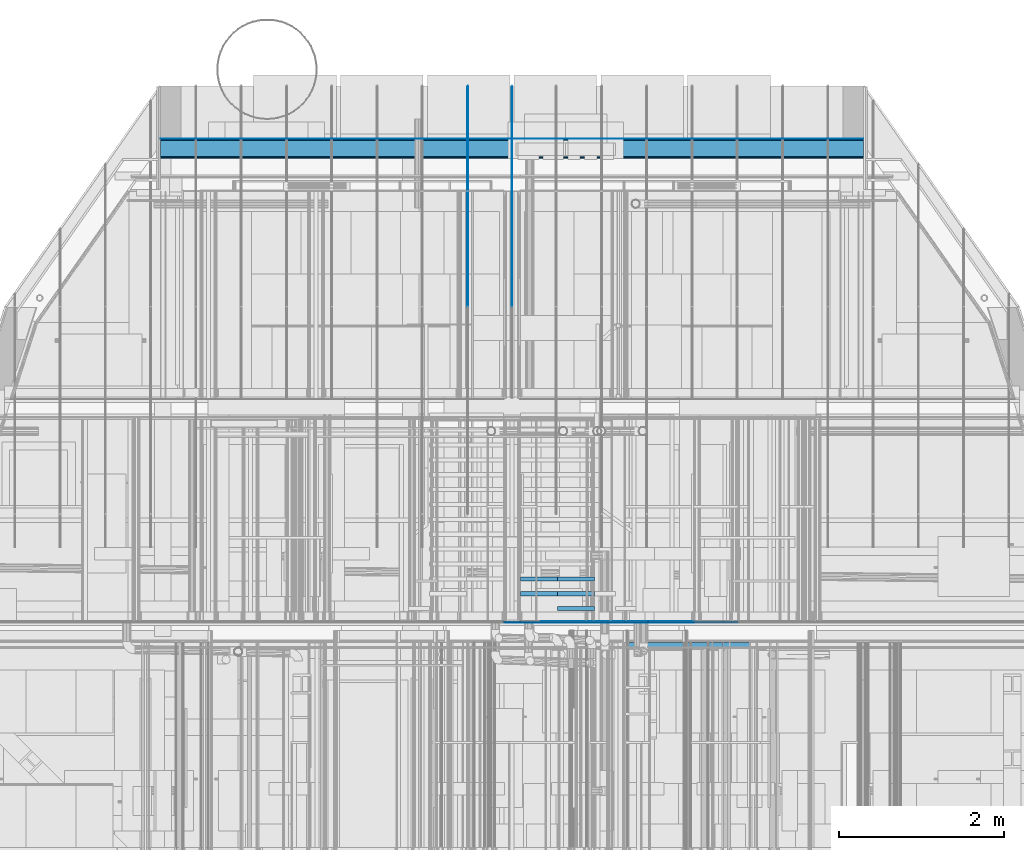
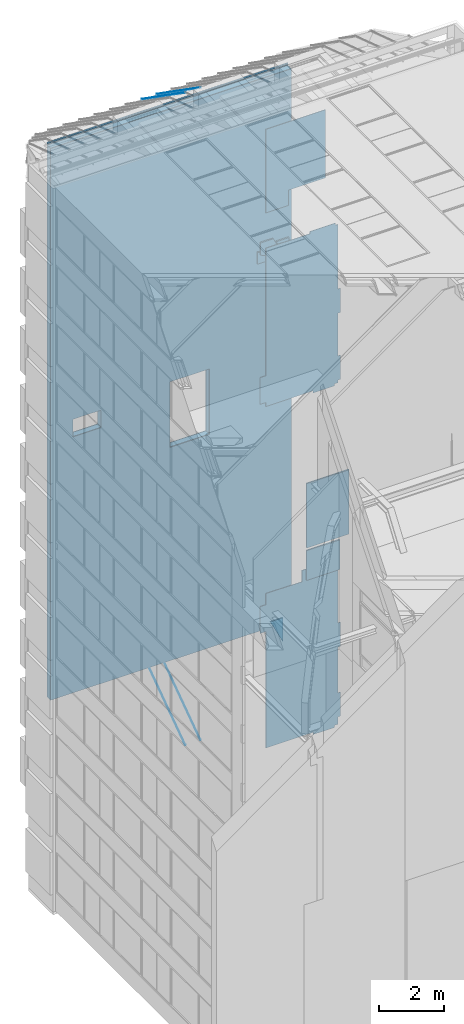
# One storey, part 281 of 583: 20 slabs.
"""IFC2X3 building model written with IfcOpenShell, lengths in metres."""

import ifcopenshell
import ifcopenshell.guid

model = None  # the IFC model being written
_history = None  # IfcOwnerHistory: only IFC2X3 demands one
_inside = {}  # id of a spatial element -> (the spatial element, [elements in it])
_under = {}  # id of a project, library or spatial element -> (it, [spatial elements below it])
_declared = {}  # id of a project -> (the project, [libraries it declares])
_typed = {}  # id of a type object -> (the type object, [elements of that type])
_made_of = {}  # id of a material, layer set ... -> (it, [elements and type objects made of it])


def new_model(schema):
    """Start an empty IFC model of exactly this schema.

    Asked for "IFC4X3", IfcOpenShell would pick the latest addendum, in which some entities
    have other attributes; the version numbers below select the first issue.
    IFC2X3 requires an IfcOwnerHistory on every rooted entity: one is made here for all.
    """
    global model, _history
    if schema == "IFC4X3":
        model = ifcopenshell.file(schema_version=(4, 3, 0, 0))
    else:
        model = ifcopenshell.file(schema=schema)
    _inside.clear()
    _under.clear()
    _declared.clear()
    _typed.clear()
    _made_of.clear()
    _history = None
    if model.schema == "IFC2X3":
        org = make("IfcOrganization", Name="unknown")
        user = make(
            "IfcPersonAndOrganization",
            ThePerson=make("IfcPerson", FamilyName="unknown"),
            TheOrganization=org,
        )
        app = make(
            "IfcApplication",
            ApplicationDeveloper=org,
            Version="unknown",
            ApplicationFullName="unknown",
            ApplicationIdentifier="unknown",
        )
        _history = make(
            "IfcOwnerHistory",
            OwningUser=user,
            OwningApplication=app,
            ChangeAction="ADDED",
            CreationDate=0,
        )
    return model


def make(cls, **values):
    """One entity of the class cls with the attributes given. An attribute that is None is left unset."""
    return model.create_entity(
        cls, **{name: value for name, value in values.items() if value is not None}
    )


def entity(cls, *values):
    """Any entity or typed value of the class cls, its attributes in the order of the schema. None: left unset."""
    e = model.create_entity(cls)
    for i, value in enumerate(values):
        if value is not None:
            e[i] = value
    return e


def rooted(cls, **values):
    """An entity with a GlobalId (a new one), such as an element, a storey or a relation."""
    return make(cls, GlobalId=ifcopenshell.guid.new(), OwnerHistory=_history, **values)


def si_unit(unit_type, name, prefix=None):
    """IfcSIUnit, for example si_unit("LENGTHUNIT", "METRE", prefix="MILLI")."""
    return make("IfcSIUnit", UnitType=unit_type, Prefix=prefix, Name=name)


def converted_unit(unit_type, name, factor, base, dimensions=None, offset=None):
    """IfcConversionBasedUnit, such as the inch: factor (a typed value) times the base unit."""
    return make(
        "IfcConversionBasedUnit"
        if offset is None
        else "IfcConversionBasedUnitWithOffset",
        ConversionOffset=offset,
        Dimensions=None
        if dimensions is None
        else entity("IfcDimensionalExponents", *dimensions),
        UnitType=unit_type,
        Name=name,
        ConversionFactor=make(
            "IfcMeasureWithUnit", ValueComponent=factor, UnitComponent=base
        ),
    )


def derived_unit(unit_type, elements):
    """IfcDerivedUnit: a product of units, each with its exponent."""
    return make(
        "IfcDerivedUnit",
        Elements=[
            make("IfcDerivedUnitElement", Unit=unit, Exponent=power)
            for unit, power in elements
        ],
        UnitType=unit_type,
    )


def money_unit(currency):
    """IfcMonetaryUnit."""
    return make("IfcMonetaryUnit", Currency=currency)


def assignment(units):
    """IfcUnitAssignment: the units of a project."""
    return None if units is None else make("IfcUnitAssignment", Units=units)


def point(xyz):
    """IfcCartesianPoint."""
    return None if xyz is None else make("IfcCartesianPoint", Coordinates=xyz)


def direction(xyz):
    """IfcDirection."""
    return None if xyz is None else make("IfcDirection", DirectionRatios=xyz)


def frame(location, z_axis=None, x_axis=None):
    """IfcAxis2Placement3D, a coordinate frame: its origin and axes. An axis left out is left unset."""
    return make(
        "IfcAxis2Placement3D",
        Location=point(location),
        Axis=direction(z_axis),
        RefDirection=direction(x_axis),
    )


def origin_with_axes():
    """The frame at (0, 0, 0) with the z axis (0, 0, 1) and the x axis (1, 0, 0) written out."""
    return frame((0.0, 0.0, 0.0), z_axis=(0.0, 0.0, 1.0), x_axis=(1.0, 0.0, 0.0))


def place(relative_to, where):
    """IfcLocalPlacement: puts the frame where relative to a parent placement (None: the world)."""
    return make(
        "IfcLocalPlacement", PlacementRelTo=relative_to, RelativePlacement=where
    )


def context(
    kind, dimensions, precision=None, world=None, true_north=None, identifier=None
):
    """IfcGeometricRepresentationContext, for example the 3D "Model" context."""
    return make(
        "IfcGeometricRepresentationContext",
        ContextIdentifier=identifier,
        ContextType=kind,
        CoordinateSpaceDimension=dimensions,
        Precision=precision,
        WorldCoordinateSystem=world,
        TrueNorth=true_north,
    )


def subcontext(parent, identifier, kind, view, scale=None):
    """IfcGeometricRepresentationSubContext, for example "Body" below "Model"."""
    return make(
        "IfcGeometricRepresentationSubContext",
        ContextIdentifier=identifier,
        ContextType=kind,
        ParentContext=parent,
        TargetScale=scale,
        TargetView=view,
    )


def project(units=None, contexts=None):
    """IfcProject with its units and contexts."""
    return rooted(
        "IfcProject",
        Name="project",
        RepresentationContexts=contexts,
        UnitsInContext=assignment(units),
    )


def spatial(cls, under=None, at=None, **own):
    """A site, building, storey or space (cls), placed at a placement, below another one or the project."""
    s = rooted(cls, ObjectPlacement=at, **own)
    if under is not None:
        _under.setdefault(under.id(), (under, []))[1].append(s)
    return s


def faces_of(points, faces, orient=None, outer=None):
    """IfcFace entities. A face is a list of loops; a loop is a list of indices into points, from 0.

    orient and outer hold one flag for each loop. By default every Orientation is true, the
    first loop of a face is its IfcFaceOuterBound and the others are IfcFaceBound.
    """
    made = []
    for i, loops in enumerate(faces):
        bounds = []
        for j, loop in enumerate(loops):
            is_outer = j == 0 if outer is None else outer[i][j]
            bounds.append(
                make(
                    "IfcFaceOuterBound" if is_outer else "IfcFaceBound",
                    Bound=make("IfcPolyLoop", Polygon=[points[k] for k in loop]),
                    Orientation=True if orient is None else orient[i][j],
                )
            )
        made.append(make("IfcFace", Bounds=bounds))
    return made


def faceted_brep(points, faces, orient=None, outer=None, voids=None):
    """IfcFacetedBrep: a solid bounded by flat faces; with voids (closed shells), ...WithVoids."""
    shared = [point(p) for p in points]
    hull = make("IfcClosedShell", CfsFaces=faces_of(shared, faces, orient, outer))
    if voids is None:
        return make("IfcFacetedBrep", Outer=hull)
    return make(
        "IfcFacetedBrepWithVoids",
        Outer=hull,
        Voids=[
            make(cls, CfsFaces=faces_of(shared, fs, o, b)) for cls, fs, o, b in voids
        ],
    )


def shape(context_of_items, identifier, shape_type, items):
    """IfcShapeRepresentation: the items that make up one representation, for example the "Body"."""
    return make(
        "IfcShapeRepresentation",
        ContextOfItems=context_of_items,
        RepresentationIdentifier=identifier,
        RepresentationType=shape_type,
        Items=items,
    )


def material(Name=None, Category=None):
    """IfcMaterial."""
    return make("IfcMaterial", Name=Name, Category=Category)


def made_of(thing, what):
    """Note that an element or type object is made of a material, layer set ...; save() writes the relation."""
    if what is not None:
        _made_of.setdefault(what.id(), (what, []))[1].append(thing)
    return thing


def type_object(cls, material=None, **own):
    """A type object (cls), such as IfcWallType, which elements share."""
    return made_of(rooted(cls, **own), material)


def element(
    cls,
    number,
    at=None,
    inside=None,
    cuts=None,
    type_object=None,
    material=None,
    context=None,
    identifier="Body",
    shape_type=None,
    held_by="IfcProductDefinitionShape",
    body=None,
    shapes=None,
    **own,
):
    """One element of the class cls, such as IfcWall. Its Tag is "e" and its number.

    at: its placement. inside: the storey or other place that contains it. cuts: it is an
    opening in that element (IfcRelVoidsElement). A single representation is given by context,
    identifier, shape_type and body (its items); several are given by shapes. held_by: the class
    of the entity that holds the representations. save() writes the other relations.
    """
    e = rooted(cls, Tag="e%d" % number, ObjectPlacement=at, **own)
    if body is not None:
        shapes = [shape(context, identifier, shape_type, body)]
    if shapes is not None:
        e.Representation = make(held_by, Representations=shapes)
    if inside is not None:
        _inside.setdefault(inside.id(), (inside, []))[1].append(e)
    if cuts is not None:
        rooted(
            "IfcRelVoidsElement", RelatingBuildingElement=cuts, RelatedOpeningElement=e
        )
    if type_object is not None:
        _typed.setdefault(type_object.id(), (type_object, []))[1].append(e)
    return made_of(e, material)


def aggregate(whole, parts):
    """IfcRelAggregates: a whole, such as a stair, and the parts it consists of."""
    return rooted("IfcRelAggregates", RelatingObject=whole, RelatedObjects=parts)


def save(model, path):
    """Write the relations noted so far, then the file.

    IfcRelAggregates (storeys below a building ...), IfcRelContainedInSpatialStructure (elements
    in a storey), IfcRelDefinesByType, IfcRelAssociatesMaterial and IfcRelDeclares: one each for
    every whole, place, type object, material and project.
    """
    for whole, parts in _under.values():
        aggregate(whole, parts)
    for where, things in _inside.values():
        rooted(
            "IfcRelContainedInSpatialStructure",
            RelatedElements=things,
            RelatingStructure=where,
        )
    for kind, things in _typed.values():
        rooted("IfcRelDefinesByType", RelatedObjects=things, RelatingType=kind)
    for what, things in _made_of.values():
        rooted("IfcRelAssociatesMaterial", RelatedObjects=things, RelatingMaterial=what)
    for by, libraries in _declared.values():
        rooted("IfcRelDeclares", RelatingContext=by, RelatedDefinitions=libraries)
    model.write(path)


model = new_model("IFC2X3")

# Units and contexts
model_context = context("Model", 3, precision=1e-05, world=origin_with_axes(), true_north=direction((0.0, 1.0)))
body_context = subcontext(model_context, "Body", "Model", "MODEL_VIEW", scale=1.0)
ifc_project = project(units=[si_unit("LENGTHUNIT", "METRE"), si_unit("AREAUNIT", "SQUARE_METRE"), si_unit("VOLUMEUNIT", "CUBIC_METRE"), si_unit("ABSORBEDDOSEUNIT", "GRAY"), si_unit("AMOUNTOFSUBSTANCEUNIT", "MOLE"), si_unit("DOSEEQUIVALENTUNIT", "SIEVERT"), si_unit("ELECTRICCAPACITANCEUNIT", "FARAD"), si_unit("ELECTRICCHARGEUNIT", "COULOMB"), si_unit("ELECTRICCONDUCTANCEUNIT", "SIEMENS"), si_unit("ELECTRICCURRENTUNIT", "AMPERE"), si_unit("ELECTRICRESISTANCEUNIT", "OHM"), si_unit("ELECTRICVOLTAGEUNIT", "VOLT"), si_unit("ENERGYUNIT", "JOULE"), si_unit("FORCEUNIT", "NEWTON"), si_unit("FREQUENCYUNIT", "HERTZ"), si_unit("ILLUMINANCEUNIT", "LUX"), si_unit("INDUCTANCEUNIT", "HENRY"), si_unit("LUMINOUSFLUXUNIT", "LUMEN"), si_unit("LUMINOUSINTENSITYUNIT", "CANDELA"), si_unit("MAGNETICFLUXDENSITYUNIT", "TESLA"), si_unit("MAGNETICFLUXUNIT", "WEBER"), si_unit("MASSUNIT", "GRAM"), converted_unit("PLANEANGLEUNIT", "degree", entity("IfcReal", 0.0174532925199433), si_unit("PLANEANGLEUNIT", "RADIAN"), dimensions=[0, 0, 0, 0, 0, 0, 0]), si_unit("POWERUNIT", "WATT"), si_unit("PRESSUREUNIT", "PASCAL"), si_unit("RADIOACTIVITYUNIT", "BECQUEREL"), si_unit("SOLIDANGLEUNIT", "STERADIAN"), si_unit("THERMODYNAMICTEMPERATUREUNIT", "KELVIN"), si_unit("TIMEUNIT", "SECOND"), derived_unit("ACCELERATIONUNIT", [(si_unit("LENGTHUNIT", "METRE"), 1), (si_unit("TIMEUNIT", "SECOND"), -2)]), derived_unit("ANGULARVELOCITYUNIT", [(converted_unit("PLANEANGLEUNIT", "degree", entity("IfcReal", 0.0174532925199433), si_unit("PLANEANGLEUNIT", "RADIAN"), dimensions=[0, 0, 0, 0, 0, 0, 0]), 1), (si_unit("TIMEUNIT", "SECOND"), -1)]), derived_unit("CURVATUREUNIT", [(converted_unit("PLANEANGLEUNIT", "degree", entity("IfcReal", 0.0174532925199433), si_unit("PLANEANGLEUNIT", "RADIAN"), dimensions=[0, 0, 0, 0, 0, 0, 0]), 1), (si_unit("LENGTHUNIT", "METRE"), -1)]), derived_unit("DYNAMICVISCOSITYUNIT", [(si_unit("PRESSUREUNIT", "PASCAL"), 1), (si_unit("TIMEUNIT", "SECOND"), 1)]), derived_unit("HEATFLUXDENSITYUNIT", [(si_unit("POWERUNIT", "WATT"), 1), (si_unit("LENGTHUNIT", "METRE"), -2)]), derived_unit("HEATINGVALUEUNIT", [(si_unit("ENERGYUNIT", "JOULE"), 1), (si_unit("MASSUNIT", "GRAM"), -1)]), derived_unit("INTEGERCOUNTRATEUNIT", [(si_unit("TIMEUNIT", "SECOND"), -1)]), derived_unit("IONCONCENTRATIONUNIT", [(si_unit("MASSUNIT", "GRAM"), 1), (si_unit("VOLUMEUNIT", "CUBIC_METRE"), -1)]), derived_unit("ISOTHERMALMOISTURECAPACITYUNIT", [(si_unit("VOLUMEUNIT", "CUBIC_METRE"), 1), (si_unit("MASSUNIT", "GRAM"), -1)]), derived_unit("KINEMATICVISCOSITYUNIT", [(si_unit("AREAUNIT", "SQUARE_METRE"), 1), (si_unit("TIMEUNIT", "SECOND"), -1)]), derived_unit("LINEARFORCEUNIT", [(si_unit("FORCEUNIT", "NEWTON"), 1), (si_unit("LENGTHUNIT", "METRE"), -1)]), derived_unit("LINEARMOMENTUNIT", [(si_unit("FORCEUNIT", "NEWTON"), 1), (si_unit("LENGTHUNIT", "METRE"), -1)]), derived_unit("LINEARSTIFFNESSUNIT", [(si_unit("FORCEUNIT", "NEWTON"), 1), (si_unit("LENGTHUNIT", "METRE"), -1)]), derived_unit("LINEARVELOCITYUNIT", [(si_unit("LENGTHUNIT", "METRE"), 1), (si_unit("TIMEUNIT", "SECOND"), -1)]), derived_unit("LUMINOUSINTENSITYDISTRIBUTIONUNIT", [(si_unit("LUMINOUSINTENSITYUNIT", "CANDELA"), 1), (si_unit("LUMINOUSFLUXUNIT", "LUMEN"), -1)]), derived_unit("MASSDENSITYUNIT", [(si_unit("MASSUNIT", "GRAM"), 1), (si_unit("VOLUMEUNIT", "CUBIC_METRE"), -1)]), derived_unit("MASSFLOWRATEUNIT", [(si_unit("MASSUNIT", "GRAM"), 1), (si_unit("TIMEUNIT", "SECOND"), -1)]), derived_unit("MASSPERLENGTHUNIT", [(si_unit("MASSUNIT", "GRAM"), 1), (si_unit("LENGTHUNIT", "METRE"), -1)]), derived_unit("MODULUSOFELASTICITYUNIT", [(si_unit("FORCEUNIT", "NEWTON"), 1), (si_unit("AREAUNIT", "SQUARE_METRE"), -1)]), derived_unit("MODULUSOFLINEARSUBGRADEREACTIONUNIT", [(si_unit("FORCEUNIT", "NEWTON"), 1), (si_unit("LENGTHUNIT", "METRE"), -2)]), derived_unit("MODULUSOFROTATIONALSUBGRADEREACTIONUNIT", [(si_unit("FORCEUNIT", "NEWTON"), 1), (si_unit("LENGTHUNIT", "METRE"), 1)]), derived_unit("MODULUSOFSUBGRADEREACTIONUNIT", [(si_unit("FORCEUNIT", "NEWTON"), 1), (si_unit("VOLUMEUNIT", "CUBIC_METRE"), -1)]), derived_unit("MOISTUREDIFFUSIVITYUNIT", [(si_unit("VOLUMEUNIT", "CUBIC_METRE"), 1), (si_unit("TIMEUNIT", "SECOND"), -1)]), derived_unit("MOLECULARWEIGHTUNIT", [(si_unit("MASSUNIT", "GRAM"), 1), (si_unit("AMOUNTOFSUBSTANCEUNIT", "MOLE"), -1)]), derived_unit("PLANARFORCEUNIT", [(si_unit("FORCEUNIT", "NEWTON"), 1), (si_unit("LENGTHUNIT", "METRE"), -2)]), derived_unit("ROTATIONALFREQUENCYUNIT", [(si_unit("TIMEUNIT", "SECOND"), -1)]), derived_unit("ROTATIONALMASSUNIT", [(si_unit("MASSUNIT", "GRAM"), 1), (si_unit("LENGTHUNIT", "METRE"), 2)]), derived_unit("ROTATIONALSTIFFNESSUNIT", [(si_unit("FORCEUNIT", "NEWTON"), 1), (si_unit("LENGTHUNIT", "METRE"), 1), (converted_unit("PLANEANGLEUNIT", "degree", entity("IfcReal", 0.0174532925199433), si_unit("PLANEANGLEUNIT", "RADIAN"), dimensions=[0, 0, 0, 0, 0, 0, 0]), -1)]), derived_unit("SECTIONAREAINTEGRALUNIT", [(si_unit("LENGTHUNIT", "METRE"), 5)]), derived_unit("SECTIONMODULUSUNIT", [(si_unit("LENGTHUNIT", "METRE"), 3)]), derived_unit("SHEARMODULUSUNIT", [(si_unit("FORCEUNIT", "NEWTON"), 1), (si_unit("AREAUNIT", "SQUARE_METRE"), -1)]), derived_unit("SOUNDPOWERUNIT", [(si_unit("ENERGYUNIT", "JOULE"), 1), (si_unit("TIMEUNIT", "SECOND"), -1)]), derived_unit("SPECIFICHEATCAPACITYUNIT", [(si_unit("FORCEUNIT", "NEWTON"), 1), (si_unit("MASSUNIT", "GRAM"), -1), (si_unit("THERMODYNAMICTEMPERATUREUNIT", "KELVIN"), -1)]), derived_unit("TEMPERATUREGRADIENTUNIT", [(si_unit("THERMODYNAMICTEMPERATUREUNIT", "KELVIN"), 1), (si_unit("LENGTHUNIT", "METRE"), -1)]), derived_unit("THERMALADMITTANCEUNIT", [(si_unit("POWERUNIT", "WATT"), 1), (si_unit("AREAUNIT", "SQUARE_METRE"), -1), (si_unit("THERMODYNAMICTEMPERATUREUNIT", "KELVIN"), -1)]), derived_unit("THERMALCONDUCTANCEUNIT", [(si_unit("POWERUNIT", "WATT"), 1), (si_unit("LENGTHUNIT", "METRE"), -1), (si_unit("THERMODYNAMICTEMPERATUREUNIT", "KELVIN"), -1)]), derived_unit("THERMALEXPANSIONCOEFFICIENTUNIT", [(si_unit("THERMODYNAMICTEMPERATUREUNIT", "KELVIN"), -1)]), derived_unit("THERMALRESISTANCEUNIT", [(si_unit("AREAUNIT", "SQUARE_METRE"), 1), (si_unit("POWERUNIT", "WATT"), -1)]), derived_unit("THERMALTRANSMITTANCEUNIT", [(si_unit("POWERUNIT", "WATT"), 1), (si_unit("AREAUNIT", "SQUARE_METRE"), -1), (si_unit("THERMODYNAMICTEMPERATUREUNIT", "KELVIN"), -1)]), derived_unit("TORQUEUNIT", [(si_unit("FORCEUNIT", "NEWTON"), 1), (si_unit("LENGTHUNIT", "METRE"), 1)]), derived_unit("VAPORPERMEABILITYUNIT", [(si_unit("MASSUNIT", "GRAM"), 1), (si_unit("TIMEUNIT", "SECOND"), -1)]), derived_unit("VOLUMETRICFLOWRATEUNIT", [(si_unit("VOLUMEUNIT", "CUBIC_METRE"), 1), (si_unit("TIMEUNIT", "SECOND"), -1)]), derived_unit("WARPINGCONSTANTUNIT", [(si_unit("LENGTHUNIT", "METRE"), 6)]), derived_unit("WARPINGMOMENTUNIT", [(si_unit("FORCEUNIT", "NEWTON"), 1), (si_unit("LENGTHUNIT", "METRE"), 2)]), money_unit("GBP")], contexts=[model_context])

# Site, building, storey
site_placement = place(None, origin_with_axes())
site = spatial("IfcSite", under=ifc_project, at=site_placement, Name="Site", CompositionType="ELEMENT")
building_placement = place(site_placement, origin_with_axes())
building = spatial("IfcBuilding", under=site, at=building_placement, Name="Building01", CompositionType="ELEMENT")
storey_placement = place(building_placement, frame((0.0, 0.0, 20.78), z_axis=(0.0, 0.0, 1.0), x_axis=(1.0, 0.0, 0.0)))
storey = spatial("IfcBuildingStorey", under=building, at=storey_placement, Name="RL", CompositionType="ELEMENT", Elevation=20.78)

# Slabs
ifc_material_1 = material(Name="A_BSUK_ExpandedPolystyreneBoards")
slab_type_1 = type_object("IfcSlabType", Name="A-FloorsSlabs A_BSUK_Slabs", PredefinedType="FLOOR")
placement = place(storey_placement, frame((0.0, 0.0, -20.78), z_axis=(0.0, 0.0, 1.0), x_axis=(1.0, 0.0, 0.0)))
element("IfcSlab", 1, at=placement, inside=storey, type_object=slab_type_1, material=ifc_material_1, Name="A-FloorsSlabs A_BSUK_Slabs", ObjectType="CompoundSlabLeaf", context=body_context, shape_type="Brep", body=[
    faceted_brep([(9.974939, 14.965, 3.3), (9.974939, 14.968, 3.3), (10.099939, 14.968, 3.3), (10.099939, 14.965, 3.3), (9.974939, 14.965, 3.22), (9.974939, 14.968, 3.22), (9.224939, 14.965, 3.22), (9.224939, 14.968, 3.22), (9.224939, 14.965, 3.3), (9.224939, 14.968, 3.3), (8.695061, 14.965, 3.3), (8.695061, 14.968, 3.3), (7.550061, 14.965, 3.3), (7.550061, 14.968, 3.3), (7.550061, 14.965, 4.74), (7.550061, 14.968, 4.74), (7.550061, 14.965, 7.54), (7.550061, 14.968, 7.54), (7.55, 14.965, 7.54), (7.55, 14.968, 7.54), (7.55, 14.965, 7.644), (7.55, 14.968, 7.644), (7.349939, 14.965, 7.644), (7.349939, 14.968, 7.644), (7.349939, 14.965, 8.644), (7.349939, 14.968, 8.644), (7.55, 14.965, 8.644), (7.55, 14.968, 8.644), (7.55, 14.965, 9.06), (7.55, 14.968, 9.06), (8.82, 14.965, 9.06), (8.82, 14.968, 9.06), (8.82, 14.965, 9.480024), (8.82, 14.968, 9.480024), (9.099939, 14.965, 9.480024), (9.099939, 14.968, 9.480024), (9.099939, 14.965, 9.560024), (9.099939, 14.968, 9.560024), (9.999939, 14.965, 9.560024), (9.999939, 14.968, 9.560024), (9.999939, 14.965, 9.480024), (9.999939, 14.968, 9.480024), (10.099939, 14.965, 9.480024), (10.099939, 14.968, 9.480024), (10.099939, 14.965, 8.290024), (10.099939, 14.968, 8.290024), (10.099939, 14.965, 7.390024), (10.099939, 14.968, 7.390024), (10.099939, 14.965, 7.080024), (10.099939, 14.968, 7.080024), (10.179939, 14.965, 7.080024), (10.179939, 14.968, 7.080024), (10.179939, 14.965, 6.180024), (10.179939, 14.968, 6.180024), (10.099939, 14.965, 6.180024), (10.099939, 14.968, 6.180024), (10.099939, 14.965, 4.47), (10.099939, 14.968, 4.47), (10.179939, 14.965, 4.47), (10.179939, 14.968, 4.47), (10.179939, 14.965, 3.57), (10.179939, 14.968, 3.57), (10.099939, 14.965, 3.57), (10.099939, 14.968, 3.57)], [[[0, 1, 2, 3]], [[4, 5, 1, 0]], [[6, 7, 5, 4]], [[8, 9, 7, 6]], [[10, 11, 9, 8]], [[12, 13, 11, 10]], [[14, 15, 13, 12]], [[16, 17, 15, 14]], [[18, 19, 17, 16]], [[20, 21, 19, 18]], [[22, 23, 21, 20]], [[24, 25, 23, 22]], [[26, 27, 25, 24]], [[28, 29, 27, 26]], [[30, 31, 29, 28]], [[32, 33, 31, 30]], [[34, 35, 33, 32]], [[36, 37, 35, 34]], [[38, 39, 37, 36]], [[40, 41, 39, 38]], [[42, 43, 41, 40]], [[44, 45, 43, 42]], [[46, 47, 45, 44]], [[48, 49, 47, 46]], [[50, 51, 49, 48]], [[52, 53, 51, 50]], [[54, 55, 53, 52]], [[56, 57, 55, 54]], [[58, 59, 57, 56]], [[60, 61, 59, 58]], [[62, 63, 61, 60]], [[3, 2, 63, 62]], [[1, 5, 7, 9, 11, 13, 15, 17, 19, 21, 23, 25, 27, 29, 31, 33, 35, 37, 39, 41, 43, 45, 47, 49, 51, 53, 55, 57, 59, 61, 63, 2]], [[3, 62, 60, 58, 56, 54, 52, 50, 48, 46, 44, 42, 40, 38, 36, 34, 32, 30, 28, 26, 24, 22, 20, 18, 16, 14, 12, 10, 8, 6, 4, 0]]]),
])
element("IfcSlab", 2, at=placement, inside=storey, type_object=slab_type_1, material=ifc_material_1, Name="A-FloorsSlabs A_BSUK_Slabs", ObjectType="CompoundSlabLeaf", context=body_context, shape_type="Brep", body=[
    faceted_brep([(9.961939, 14.965, 16.03844), (9.961939, 14.968, 16.03844), (10.099939, 14.968, 16.03844), (10.099939, 14.965, 16.03844), (9.961939, 14.965, 15.95844), (9.961939, 14.968, 15.95844), (9.211939, 14.965, 15.95844), (9.211939, 14.968, 15.95844), (9.211939, 14.965, 16.03844), (9.211939, 14.968, 16.03844), (7.549915, 14.965, 16.03844), (7.549915, 14.968, 16.03844), (7.549915, 14.965, 16.18844), (7.549915, 14.968, 16.18844), (7.349915, 14.965, 16.18844), (7.349915, 14.968, 16.18844), (7.349915, 14.965, 17.18844), (7.349915, 14.968, 17.18844), (7.549915, 14.965, 17.18844), (7.549915, 14.968, 17.18844), (7.549915, 14.965, 18.289976), (7.549915, 14.968, 18.289976), (7.549915, 14.965, 21.268457), (7.549915, 14.968, 21.268457), (7.549915, 14.965, 21.939976), (7.549915, 14.968, 21.939976), (9.099939, 14.965, 21.939976), (9.099939, 14.968, 21.939976), (9.099939, 14.965, 22.019976), (9.099939, 14.968, 22.019976), (9.999939, 14.965, 22.019976), (9.999939, 14.968, 22.019976), (9.999939, 14.965, 21.939976), (9.999939, 14.968, 21.939976), (10.099939, 14.965, 21.939976), (10.099939, 14.968, 21.939976), (10.099939, 14.965, 20.749976), (10.099939, 14.968, 20.749976), (10.099939, 14.965, 19.849976), (10.099939, 14.968, 19.849976), (10.099939, 14.965, 19.529976), (10.099939, 14.968, 19.529976), (10.179939, 14.965, 19.529976), (10.179939, 14.968, 19.529976), (10.179939, 14.965, 18.629976), (10.179939, 14.968, 18.629976), (10.099939, 14.965, 18.629976), (10.099939, 14.968, 18.629976), (10.099939, 14.965, 17.03844), (10.099939, 14.968, 17.03844), (10.179939, 14.965, 17.03844), (10.179939, 14.968, 17.03844), (10.179939, 14.965, 16.13844), (10.179939, 14.968, 16.13844), (10.099939, 14.965, 16.13844), (10.099939, 14.968, 16.13844)], [[[0, 1, 2, 3]], [[4, 5, 1, 0]], [[6, 7, 5, 4]], [[8, 9, 7, 6]], [[10, 11, 9, 8]], [[12, 13, 11, 10]], [[14, 15, 13, 12]], [[16, 17, 15, 14]], [[18, 19, 17, 16]], [[20, 21, 19, 18]], [[22, 23, 21, 20]], [[24, 25, 23, 22]], [[26, 27, 25, 24]], [[28, 29, 27, 26]], [[30, 31, 29, 28]], [[32, 33, 31, 30]], [[34, 35, 33, 32]], [[36, 37, 35, 34]], [[38, 39, 37, 36]], [[40, 41, 39, 38]], [[42, 43, 41, 40]], [[44, 45, 43, 42]], [[46, 47, 45, 44]], [[48, 49, 47, 46]], [[50, 51, 49, 48]], [[52, 53, 51, 50]], [[54, 55, 53, 52]], [[3, 2, 55, 54]], [[1, 5, 7, 9, 11, 13, 15, 17, 19, 21, 23, 25, 27, 29, 31, 33, 35, 37, 39, 41, 43, 45, 47, 49, 51, 53, 55, 2]], [[3, 54, 52, 50, 48, 46, 44, 42, 40, 38, 36, 34, 32, 30, 28, 26, 24, 22, 20, 18, 16, 14, 12, 10, 8, 6, 4, 0]]]),
])
element("IfcSlab", 3, at=placement, inside=storey, type_object=slab_type_1, material=ifc_material_1, Name="A-FloorsSlabs A_BSUK_Slabs", ObjectType="CompoundSlabLeaf", context=body_context, shape_type="Brep", body=[
    faceted_brep([(8.349915, 14.965, 23.83), (8.349915, 14.968, 23.83), (9.645024, 14.968, 23.83), (9.645024, 14.965, 23.83), (8.349915, 14.965, 23.258821), (8.349915, 14.968, 23.258821), (7.549915, 14.965, 23.258821), (7.549915, 14.968, 23.258821), (7.549915, 14.965, 26.3762), (7.549915, 14.968, 26.3762), (8.024915, 14.965, 26.3762), (8.024915, 14.968, 26.3762), (9.645108, 14.965, 26.3762), (9.645108, 14.968, 26.3762)], [[[0, 1, 2, 3]], [[4, 5, 1, 0]], [[6, 7, 5, 4]], [[8, 9, 7, 6]], [[10, 11, 9, 8]], [[12, 13, 11, 10]], [[3, 2, 13, 12]], [[1, 5, 7, 9, 11, 13, 2]], [[3, 12, 10, 8, 6, 4, 0]]]),
])
ifc_material_2 = material(Name="A_BSUK_Slabs")
element("IfcSlab", 4, at=placement, inside=storey, type_object=slab_type_1, material=ifc_material_2, Name="A-FloorsSlabs A_BSUK_Slabs", ObjectType="CompoundSlabLeaf", context=body_context, shape_type="Brep", body=[
    faceted_brep([(7.999939, 15.47, 7.54), (7.999939, 15.52, 7.54), (8.449939, 15.52, 6.64), (8.449939, 15.47, 6.64), (8.449939, 15.47, 7.54), (8.449939, 15.52, 7.54)], [[[0, 1, 2, 3]], [[4, 5, 1, 0]], [[3, 2, 5, 4]], [[1, 5, 2]], [[3, 4, 0]]]),
])
element("IfcSlab", 5, at=placement, inside=storey, type_object=slab_type_1, material=ifc_material_2, Name="A-FloorsSlabs A_BSUK_Slabs", ObjectType="CompoundSlabLeaf", context=body_context, shape_type="Brep", body=[
    faceted_brep([(7.549915, 15.47, 21.039976), (7.549915, 15.52, 21.039976), (8.449915, 15.52, 21.039976), (8.449915, 15.47, 21.039976), (7.549915, 15.47, 21.489976), (7.549915, 15.52, 21.489976)], [[[0, 1, 2, 3]], [[4, 5, 1, 0]], [[3, 2, 5, 4]], [[1, 5, 2]], [[3, 4, 0]]]),
])
element("IfcSlab", 6, at=placement, inside=storey, type_object=slab_type_1, material=ifc_material_2, Name="A-FloorsSlabs A_BSUK_Slabs", ObjectType="CompoundSlabLeaf", context=body_context, shape_type="Brep", body=[
    faceted_brep([(7.549915, 15.29, 21.489976), (7.549915, 15.34, 21.489976), (8.449915, 15.34, 21.039976), (8.449915, 15.29, 21.039976), (7.549915, 15.29, 21.939976), (7.549915, 15.34, 21.939976), (7.999915, 15.29, 21.939976), (7.999915, 15.34, 21.939976)], [[[0, 1, 2, 3]], [[4, 5, 1, 0]], [[6, 7, 5, 4]], [[3, 2, 7, 6]], [[1, 5, 7, 2]], [[3, 6, 4, 0]]]),
])
element("IfcSlab", 7, at=placement, inside=storey, type_object=slab_type_1, material=ifc_material_2, Name="A-FloorsSlabs A_BSUK_Slabs", ObjectType="CompoundSlabLeaf", context=body_context, shape_type="Brep", body=[
    faceted_brep([(7.999915, 15.11, 21.939976), (7.999915, 15.16, 21.939976), (8.449915, 15.16, 21.039976), (8.449915, 15.11, 21.039976), (8.449915, 15.11, 21.939976), (8.449915, 15.16, 21.939976)], [[[0, 1, 2, 3]], [[4, 5, 1, 0]], [[3, 2, 5, 4]], [[1, 5, 2]], [[3, 4, 0]]]),
])
ifc_material_3 = material(Name="A_BSUK_Roofs")
slab_8_placement = place(storey_placement, frame((7.444964, 18.780461, -19.44574), z_axis=(0.0, 1.0, 0.0), x_axis=(0.0, 0.0, 1.0)))
element("IfcSlab", 8, at=slab_8_placement, inside=storey, type_object=slab_type_1, material=ifc_material_3, Name="A-FloorsSlabs A_BSUK_Slabs", ObjectType="A-FloorsSlabs A_BSUK_Slabs", context=body_context, shape_type="Brep", body=[
    faceted_brep([(1.86568, 0.0, 2.664467), (1.849297, 0.0, 2.675938), (-0.016383, 0.0, 0.011472), (0.0, 0.0, 0.0), (-0.016383, 0.01, 0.011472), (0.0, 0.01, 0.0), (1.849297, 0.01, 2.675938), (1.86568, 0.01, 2.664467)], [[[0, 1, 2, 3]], [[3, 2, 4, 5]], [[5, 4, 6, 7]], [[7, 6, 1, 0]], [[1, 6, 4, 2]], [[3, 5, 7, 0]]]),
])
ifc_material_4 = material(Name="A_BSUK_InternalFinishes_FloorScreed")
element("IfcSlab", 9, at=placement, inside=storey, type_object=slab_type_1, material=ifc_material_4, Name="A-FloorsSlabs A_BSUK_Slabs", ObjectType="CompoundSlabLeaf", context=body_context, shape_type="Brep", body=[
    faceted_brep([(3.199939, 20.598, 3.2), (3.199939, 20.598, 23.780061), (11.699939, 20.598, 23.780061), (11.699939, 20.598, 3.2), (8.799939, 20.598, 11.1618), (8.799939, 20.598, 13.6), (7.399939, 20.598, 13.6), (7.399939, 20.598, 11.1618), (4.980368, 20.598, 12.75), (4.980368, 20.598, 13.4), (3.980368, 20.598, 13.4), (3.980368, 20.598, 12.75), (11.699939, 20.58, 3.2), (11.699939, 20.58, 23.780061), (3.199939, 20.58, 23.780061), (3.199939, 20.58, 3.2), (8.799939, 20.58, 11.1618), (7.399939, 20.58, 11.1618), (7.399939, 20.58, 13.6), (8.799939, 20.58, 13.6), (4.980368, 20.58, 12.75), (3.980368, 20.58, 12.75), (3.980368, 20.58, 13.4), (4.980368, 20.58, 13.4)], [[[0, 1, 2, 3], [4, 5, 6, 7], [8, 9, 10, 11]], [[12, 13, 14, 15], [16, 17, 18, 19], [20, 21, 22, 23]], [[15, 0, 3, 12]], [[14, 1, 0, 15]], [[13, 2, 1, 14]], [[12, 3, 2, 13]], [[16, 19, 5, 4]], [[19, 18, 6, 5]], [[18, 17, 7, 6]], [[17, 16, 4, 7]], [[20, 23, 9, 8]], [[23, 22, 10, 9]], [[22, 21, 11, 10]], [[21, 20, 8, 11]]]),
])
element("IfcSlab", 10, at=placement, inside=storey, type_object=slab_type_1, material=ifc_material_3, Name="A-FloorsSlabs A_BSUK_Slabs", ObjectType="CompoundSlabLeaf", context=body_context, shape_type="Brep", body=[
    faceted_brep([(6.908975, 18.780461, 25.64574), (6.908975, 18.791933, 25.662123), (6.908975, 21.456399, 23.796444), (6.908975, 21.444928, 23.780061), (6.918975, 18.780461, 25.64574), (6.918975, 18.791933, 25.662123), (6.918975, 21.444928, 23.780061), (6.918975, 21.456399, 23.796444)], [[[0, 1, 2, 3]], [[4, 5, 1, 0]], [[6, 7, 5, 4]], [[3, 2, 7, 6]], [[1, 5, 7, 2]], [[3, 6, 4, 0]]]),
])
element("IfcSlab", 11, at=placement, inside=storey, type_object=slab_type_1, material=ifc_material_3, Name="A-FloorsSlabs A_BSUK_Slabs", ObjectType="CompoundSlabLeaf", context=body_context, shape_type="Brep", body=[
    faceted_brep([(7.444964, 18.780461, 25.64574), (7.444964, 18.791933, 25.662123), (7.444964, 21.456399, 23.796444), (7.444964, 21.444928, 23.780061), (7.454964, 18.780461, 25.64574), (7.454964, 18.791933, 25.662123), (7.454964, 21.444928, 23.780061), (7.454964, 21.456399, 23.796444)], [[[0, 1, 2, 3]], [[4, 5, 1, 0]], [[6, 7, 5, 4]], [[3, 2, 7, 6]], [[1, 5, 7, 2]], [[3, 6, 4, 0]]]),
])
element("IfcSlab", 12, at=placement, inside=storey, type_object=slab_type_1, material=ifc_material_3, Name="A-FloorsSlabs A_BSUK_Slabs", ObjectType="CompoundSlabLeaf", context=body_context, shape_type="Brep", body=[
    faceted_brep([(6.908975, 21.444928, 3.199939), (6.908975, 21.456399, 3.183556), (6.908975, 18.791933, 1.317877), (6.908975, 18.780461, 1.33426), (6.918975, 21.444928, 3.199939), (6.918975, 21.456399, 3.183556), (6.918975, 18.780461, 1.33426), (6.918975, 18.791933, 1.317877)], [[[0, 1, 2, 3]], [[4, 5, 1, 0]], [[6, 7, 5, 4]], [[3, 2, 7, 6]], [[1, 5, 7, 2]], [[3, 6, 4, 0]]]),
])
ifc_material_5 = material(Name="A_BSUK_Insulation")
element("IfcSlab", 13, at=placement, inside=storey, type_object=slab_type_1, material=ifc_material_5, Name="A-FloorsSlabs A_BSUK_Slabs", ObjectType="CompoundSlabLeaf", context=body_context, shape_type="Brep", body=[
    faceted_brep([(3.199939, 20.798, 3.2), (3.199939, 20.798, 23.780061), (11.699939, 20.798, 23.780061), (11.699939, 20.798, 3.2), (8.799939, 20.798, 11.1618), (8.799939, 20.798, 13.6), (7.399939, 20.798, 13.6), (7.399939, 20.798, 11.1618), (4.980368, 20.798, 12.75), (4.980368, 20.798, 13.4), (3.980368, 20.798, 13.4), (3.980368, 20.798, 12.75), (11.699939, 20.598, 3.2), (11.699939, 20.598, 23.780061), (3.199939, 20.598, 23.780061), (3.199939, 20.598, 3.2), (8.799939, 20.598, 11.1618), (7.399939, 20.598, 11.1618), (7.399939, 20.598, 13.6), (8.799939, 20.598, 13.6), (4.980368, 20.598, 12.75), (3.980368, 20.598, 12.75), (3.980368, 20.598, 13.4), (4.980368, 20.598, 13.4)], [[[0, 1, 2, 3], [4, 5, 6, 7], [8, 9, 10, 11]], [[12, 13, 14, 15], [16, 17, 18, 19], [20, 21, 22, 23]], [[15, 0, 3, 12]], [[14, 1, 0, 15]], [[13, 2, 1, 14]], [[12, 3, 2, 13]], [[16, 19, 5, 4]], [[19, 18, 6, 5]], [[18, 17, 7, 6]], [[17, 16, 4, 7]], [[20, 23, 9, 8]], [[23, 22, 10, 9]], [[22, 21, 11, 10]], [[21, 20, 8, 11]]]),
])
ifc_material_6 = material(Name="A_BSUK_Timber_Miscellaneous")
element("IfcSlab", 14, at=placement, inside=storey, type_object=slab_type_1, material=ifc_material_6, Name="A-FloorsSlabs A_BSUK_Slabs", ObjectType="CompoundSlabLeaf", context=body_context, shape_type="Brep", body=[
    faceted_brep([(3.199939, 20.816, 3.2388), (3.199939, 20.816, 23.81886), (11.699939, 20.816, 23.81886), (11.699939, 20.816, 3.2388), (7.399939, 20.816, 11.1618), (8.799939, 20.816, 11.1618), (8.799939, 20.816, 13.6), (7.399939, 20.816, 13.6), (4.980368, 20.816, 12.75), (4.980368, 20.816, 13.4), (3.980368, 20.816, 13.4), (3.980368, 20.816, 12.75), (11.699939, 20.798, 3.2388), (11.699939, 20.798, 23.81886), (3.199939, 20.798, 23.81886), (3.199939, 20.798, 3.2388), (7.399939, 20.798, 11.1618), (7.399939, 20.798, 13.6), (8.799939, 20.798, 13.6), (8.799939, 20.798, 11.1618), (4.980368, 20.798, 12.75), (3.980368, 20.798, 12.75), (3.980368, 20.798, 13.4), (4.980368, 20.798, 13.4)], [[[0, 1, 2, 3], [4, 5, 6, 7], [8, 9, 10, 11]], [[12, 13, 14, 15], [16, 17, 18, 19], [20, 21, 22, 23]], [[15, 0, 3, 12]], [[14, 1, 0, 15]], [[13, 2, 1, 14]], [[12, 3, 2, 13]], [[4, 16, 19, 5]], [[19, 18, 6, 5]], [[18, 17, 7, 6]], [[17, 16, 4, 7]], [[20, 23, 9, 8]], [[23, 22, 10, 9]], [[22, 21, 11, 10]], [[21, 20, 8, 11]]]),
])
element("IfcSlab", 15, at=placement, inside=storey, type_object=slab_type_1, material=ifc_material_3, Name="A-FloorsSlabs A_BSUK_Slabs", ObjectType="CompoundSlabLeaf", context=body_context, shape_type="Brep", body=[
    faceted_brep([(3.199939, 20.818, 3.292262), (3.199939, 20.818, 23.872323), (11.699939, 20.818, 23.872323), (11.699939, 20.818, 3.292262), (8.799939, 20.818, 11.1618), (8.799939, 20.818, 13.6), (7.399939, 20.818, 13.6), (7.399939, 20.818, 11.1618), (4.980368, 20.818, 12.75), (4.980368, 20.818, 13.4), (3.980368, 20.818, 13.4), (3.980368, 20.818, 12.75), (11.699939, 20.816, 3.292262), (11.699939, 20.816, 23.872323), (3.199939, 20.816, 23.872323), (3.199939, 20.816, 3.292262), (8.799939, 20.816, 11.1618), (7.399939, 20.816, 11.1618), (7.399939, 20.816, 13.6), (8.799939, 20.816, 13.6), (4.980368, 20.816, 12.75), (3.980368, 20.816, 12.75), (3.980368, 20.816, 13.4), (4.980368, 20.816, 13.4)], [[[0, 1, 2, 3], [4, 5, 6, 7], [8, 9, 10, 11]], [[12, 13, 14, 15], [16, 17, 18, 19], [20, 21, 22, 23]], [[15, 0, 3, 12]], [[14, 1, 0, 15]], [[13, 2, 1, 14]], [[12, 3, 2, 13]], [[4, 16, 19, 5]], [[5, 19, 18, 6]], [[6, 18, 17, 7]], [[7, 17, 16, 4]], [[8, 20, 23, 9]], [[9, 23, 22, 10]], [[10, 22, 21, 11]], [[11, 21, 20, 8]]]),
])
ifc_material_7 = material(Name="A_BSUK_Ceramic_FloorTiles")
slab_type_2 = type_object("IfcSlabType", Name="A-Finishes A_BSUK_Ceramic_FloorTiles", PredefinedType="FLOOR")
element("IfcSlab", 16, at=placement, inside=storey, type_object=slab_type_2, material=ifc_material_7, Name="A-Finishes A_BSUK_Ceramic_FloorTiles", ObjectType="CompoundSlabLeaf", context=body_context, shape_type="Brep", body=[
    faceted_brep([(8.349915, 14.968, 23.83), (8.349915, 14.98, 23.83), (9.645024, 14.98, 23.83), (9.645024, 14.968, 23.83), (8.349915, 14.968, 23.258821), (8.349915, 14.98, 23.258821), (7.549915, 14.968, 23.258821), (7.549915, 14.98, 23.258821), (7.549915, 14.968, 26.3762), (7.549915, 14.98, 26.3762), (8.024915, 14.968, 26.3762), (8.024915, 14.98, 26.3762), (9.645108, 14.968, 26.3762), (9.645108, 14.98, 26.3762)], [[[0, 1, 2, 3]], [[4, 5, 1, 0]], [[6, 7, 5, 4]], [[8, 9, 7, 6]], [[10, 11, 9, 8]], [[12, 13, 11, 10]], [[3, 2, 13, 12]], [[1, 5, 7, 9, 11, 13, 2]], [[3, 12, 10, 8, 6, 4, 0]]]),
])
slab_type_3 = type_object("IfcSlabType", Name="A-FloorsSlabs A_BSUK_ExpandedPolystyreneBoards", PredefinedType="FLOOR")
element("IfcSlab", 17, at=placement, inside=storey, type_object=slab_type_3, material=ifc_material_1, Name="A-FloorsSlabs A_BSUK_ExpandedPolystyreneBoards", ObjectType="CompoundSlabLeaf", context=body_context, shape_type="Brep", body=[
    faceted_brep([(10.32, 14.673, 10.488871), (10.32, 14.723, 10.488871), (10.32, 14.723, 12.893585), (10.32, 14.673, 12.893585), (8.82, 14.673, 10.488871), (8.82, 14.723, 10.488871), (8.82, 14.673, 12.893585), (8.82, 14.723, 12.893585)], [[[0, 1, 2, 3]], [[4, 5, 1, 0]], [[6, 7, 5, 4]], [[3, 2, 7, 6]], [[1, 5, 7, 2]], [[3, 6, 4, 0]]]),
])
element("IfcSlab", 18, at=placement, inside=storey, type_object=slab_type_3, material=ifc_material_1, Name="A-FloorsSlabs A_BSUK_ExpandedPolystyreneBoards", ObjectType="CompoundSlabLeaf", context=body_context, shape_type="Brep", body=[
    faceted_brep([(8.82, 14.673, 9.285), (8.82, 14.723, 9.285), (9.992662, 14.723, 9.285), (9.992662, 14.673, 9.285), (8.82, 14.673, 10.393585), (8.82, 14.723, 10.393585), (9.992662, 14.673, 10.393585), (9.992662, 14.723, 10.393585)], [[[0, 1, 2, 3]], [[4, 5, 1, 0]], [[6, 7, 5, 4]], [[3, 2, 7, 6]], [[1, 5, 7, 2]], [[3, 6, 4, 0]]]),
])
slab_type_4 = type_object("IfcSlabType", Name="A-FloorsSlabs A_BSUK_InternalFinishes_FloorScreed", PredefinedType="FLOOR")
element("IfcSlab", 19, at=placement, inside=storey, type_object=slab_type_4, material=ifc_material_4, Name="A-FloorsSlabs A_BSUK_InternalFinishes_FloorScreed", ObjectType="CompoundSlabLeaf", context=body_context, shape_type="Brep", body=[
    faceted_brep([(9.974939, 14.968, 3.3), (9.974939, 14.98, 3.3), (10.099939, 14.98, 3.3), (10.099939, 14.968, 3.3), (9.974939, 14.968, 3.22), (9.974939, 14.98, 3.22), (9.224939, 14.968, 3.22), (9.224939, 14.98, 3.22), (9.224939, 14.968, 3.3), (9.224939, 14.98, 3.3), (8.695061, 14.968, 3.3), (8.695061, 14.98, 3.3), (7.550061, 14.968, 3.3), (7.550061, 14.98, 3.3), (7.550061, 14.968, 4.74), (7.550061, 14.98, 4.74), (7.550061, 14.968, 7.54), (7.550061, 14.98, 7.54), (7.55, 14.968, 7.54), (7.55, 14.98, 7.54), (7.55, 14.968, 7.644), (7.55, 14.98, 7.644), (7.349939, 14.968, 7.644), (7.349939, 14.98, 7.644), (7.349939, 14.968, 8.644), (7.349939, 14.98, 8.644), (7.55, 14.968, 8.644), (7.55, 14.98, 8.644), (7.55, 14.968, 9.06), (7.55, 14.98, 9.06), (8.82, 14.968, 9.06), (8.82, 14.98, 9.06), (8.82, 14.968, 9.480024), (8.82, 14.98, 9.480024), (9.099939, 14.968, 9.480024), (9.099939, 14.98, 9.480024), (9.099939, 14.968, 9.560024), (9.099939, 14.98, 9.560024), (9.999939, 14.968, 9.560024), (9.999939, 14.98, 9.560024), (9.999939, 14.968, 9.480024), (9.999939, 14.98, 9.480024), (10.099939, 14.968, 9.480024), (10.099939, 14.98, 9.480024), (10.099939, 14.968, 8.290024), (10.099939, 14.98, 8.290024), (10.099939, 14.968, 7.390024), (10.099939, 14.98, 7.390024), (10.099939, 14.968, 7.080024), (10.099939, 14.98, 7.080024), (10.179939, 14.968, 7.080024), (10.179939, 14.98, 7.080024), (10.179939, 14.968, 6.180024), (10.179939, 14.98, 6.180024), (10.099939, 14.968, 6.180024), (10.099939, 14.98, 6.180024), (10.099939, 14.968, 4.47), (10.099939, 14.98, 4.47), (10.179939, 14.968, 4.47), (10.179939, 14.98, 4.47), (10.179939, 14.968, 3.57), (10.179939, 14.98, 3.57), (10.099939, 14.968, 3.57), (10.099939, 14.98, 3.57)], [[[0, 1, 2, 3]], [[4, 5, 1, 0]], [[6, 7, 5, 4]], [[8, 9, 7, 6]], [[10, 11, 9, 8]], [[12, 13, 11, 10]], [[14, 15, 13, 12]], [[16, 17, 15, 14]], [[18, 19, 17, 16]], [[20, 21, 19, 18]], [[22, 23, 21, 20]], [[24, 25, 23, 22]], [[26, 27, 25, 24]], [[28, 29, 27, 26]], [[30, 31, 29, 28]], [[32, 33, 31, 30]], [[34, 35, 33, 32]], [[36, 37, 35, 34]], [[38, 39, 37, 36]], [[40, 41, 39, 38]], [[42, 43, 41, 40]], [[44, 45, 43, 42]], [[46, 47, 45, 44]], [[48, 49, 47, 46]], [[50, 51, 49, 48]], [[52, 53, 51, 50]], [[54, 55, 53, 52]], [[56, 57, 55, 54]], [[58, 59, 57, 56]], [[60, 61, 59, 58]], [[62, 63, 61, 60]], [[3, 2, 63, 62]], [[1, 5, 7, 9, 11, 13, 15, 17, 19, 21, 23, 25, 27, 29, 31, 33, 35, 37, 39, 41, 43, 45, 47, 49, 51, 53, 55, 57, 59, 61, 63, 2]], [[3, 62, 60, 58, 56, 54, 52, 50, 48, 46, 44, 42, 40, 38, 36, 34, 32, 30, 28, 26, 24, 22, 20, 18, 16, 14, 12, 10, 8, 6, 4, 0]]]),
])
element("IfcSlab", 20, at=placement, inside=storey, type_object=slab_type_4, material=ifc_material_4, Name="A-FloorsSlabs A_BSUK_InternalFinishes_FloorScreed", ObjectType="CompoundSlabLeaf", context=body_context, shape_type="Brep", body=[
    faceted_brep([(9.961939, 14.968, 16.03844), (9.961939, 14.98, 16.03844), (10.099939, 14.98, 16.03844), (10.099939, 14.968, 16.03844), (9.961939, 14.968, 15.95844), (9.961939, 14.98, 15.95844), (9.211939, 14.968, 15.95844), (9.211939, 14.98, 15.95844), (9.211939, 14.968, 16.03844), (9.211939, 14.98, 16.03844), (7.549915, 14.968, 16.03844), (7.549915, 14.98, 16.03844), (7.549915, 14.968, 16.18844), (7.549915, 14.98, 16.18844), (7.349915, 14.968, 16.18844), (7.349915, 14.98, 16.18844), (7.349915, 14.968, 17.18844), (7.349915, 14.98, 17.18844), (7.549915, 14.968, 17.18844), (7.549915, 14.98, 17.18844), (7.549915, 14.968, 18.289976), (7.549915, 14.98, 18.289976), (7.549915, 14.968, 21.268457), (7.549915, 14.98, 21.268457), (7.549915, 14.968, 21.939976), (7.549915, 14.98, 21.939976), (9.099939, 14.968, 21.939976), (9.099939, 14.98, 21.939976), (9.099939, 14.968, 22.019976), (9.099939, 14.98, 22.019976), (9.999939, 14.968, 22.019976), (9.999939, 14.98, 22.019976), (9.999939, 14.968, 21.939976), (9.999939, 14.98, 21.939976), (10.099939, 14.968, 21.939976), (10.099939, 14.98, 21.939976), (10.099939, 14.968, 20.749976), (10.099939, 14.98, 20.749976), (10.099939, 14.968, 19.849976), (10.099939, 14.98, 19.849976), (10.099939, 14.968, 19.529976), (10.099939, 14.98, 19.529976), (10.179939, 14.968, 19.529976), (10.179939, 14.98, 19.529976), (10.179939, 14.968, 18.629976), (10.179939, 14.98, 18.629976), (10.099939, 14.968, 18.629976), (10.099939, 14.98, 18.629976), (10.099939, 14.968, 17.03844), (10.099939, 14.98, 17.03844), (10.179939, 14.968, 17.03844), (10.179939, 14.98, 17.03844), (10.179939, 14.968, 16.13844), (10.179939, 14.98, 16.13844), (10.099939, 14.968, 16.13844), (10.099939, 14.98, 16.13844)], [[[0, 1, 2, 3]], [[4, 5, 1, 0]], [[6, 7, 5, 4]], [[8, 9, 7, 6]], [[10, 11, 9, 8]], [[12, 13, 11, 10]], [[14, 15, 13, 12]], [[16, 17, 15, 14]], [[18, 19, 17, 16]], [[20, 21, 19, 18]], [[22, 23, 21, 20]], [[24, 25, 23, 22]], [[26, 27, 25, 24]], [[28, 29, 27, 26]], [[30, 31, 29, 28]], [[32, 33, 31, 30]], [[34, 35, 33, 32]], [[36, 37, 35, 34]], [[38, 39, 37, 36]], [[40, 41, 39, 38]], [[42, 43, 41, 40]], [[44, 45, 43, 42]], [[46, 47, 45, 44]], [[48, 49, 47, 46]], [[50, 51, 49, 48]], [[52, 53, 51, 50]], [[54, 55, 53, 52]], [[3, 2, 55, 54]], [[1, 5, 7, 9, 11, 13, 15, 17, 19, 21, 23, 25, 27, 29, 31, 33, 35, 37, 39, 41, 43, 45, 47, 49, 51, 53, 55, 2]], [[3, 54, 52, 50, 48, 46, 44, 42, 40, 38, 36, 34, 32, 30, 28, 26, 24, 22, 20, 18, 16, 14, 12, 10, 8, 6, 4, 0]]]),
])

save(model, "model.ifc")
